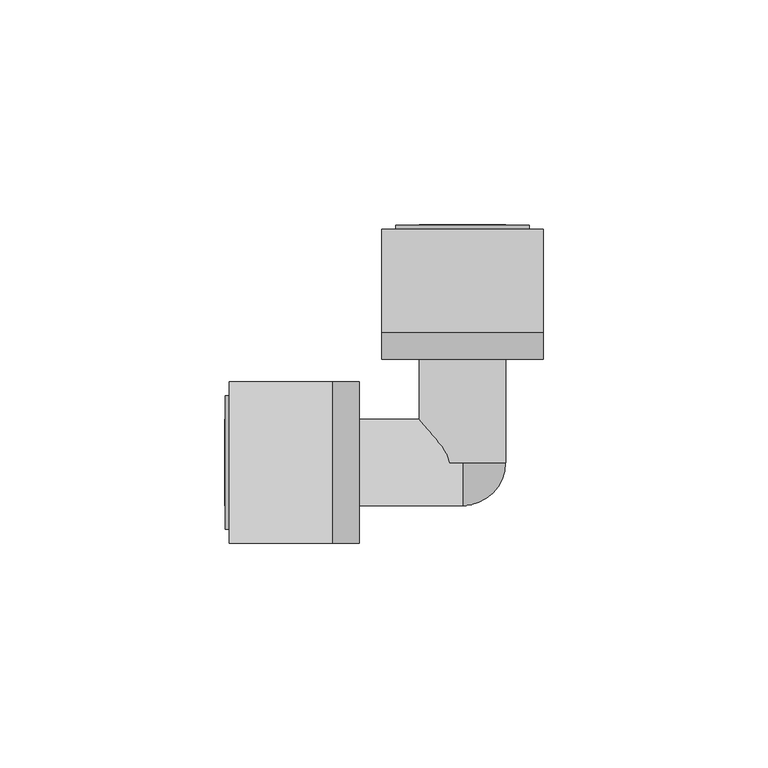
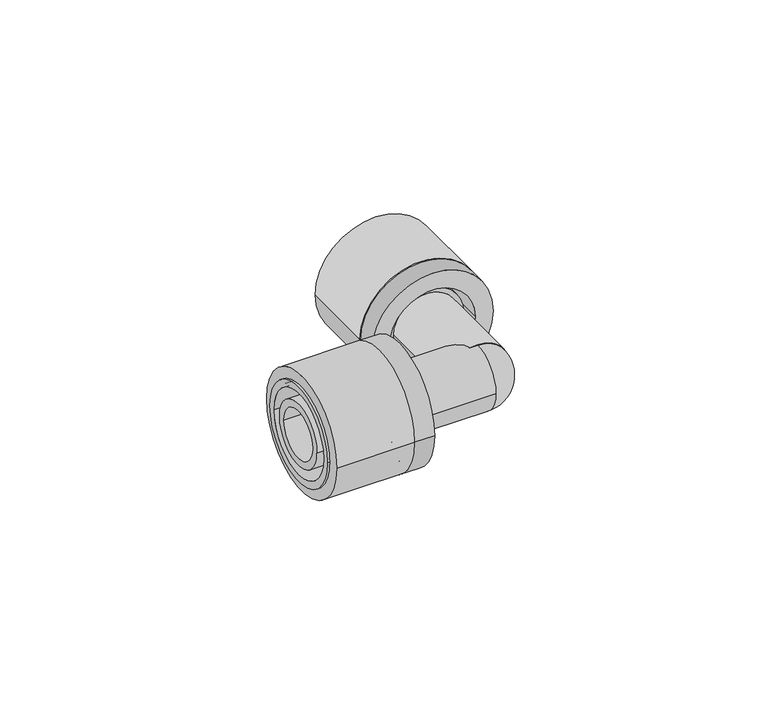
"""IFC4 building model written with IfcOpenShell, lengths in millimetres: pipe fitting geometry, FASTLOC_Corner LX : FSL C LX CZ."""

from ifc_helpers import new_model, si_unit, point, frame, origin, origin_2d, place, context, project, spatial, polyline, circle_curve, ellipse_curve, trimmed, segment, composite_curve, outline, extrude, source, transform, mapped, element, save
from ifc_brep_helpers import plane_surface, cylinder_surface, revolved_surface, advanced_brep


def pipe_fitting_5776f994(model_context):
    return source(origin(), model_context, "Body", "SolidModel", [
        extrude(outline(composite_curve([segment(trimmed(circle_curve(origin_2d(), 18.0), [point((0.0, 18.0))], [point((0.0, -18.0))], False, "CARTESIAN"), True, "CONTINUOUS"), segment(trimmed(circle_curve(origin_2d(), 18.0), [point((0.0, -18.0))], [point((0.0, 18.0))], False, "CARTESIAN"), True, "CONTINUOUS")], self_intersect=False), holes=[composite_curve([segment(trimmed(circle_curve(origin_2d(), 13.5), [point((0.0, 13.5))], [point((0.0, -13.5))], True, "CARTESIAN"), True, "CONTINUOUS"), segment(trimmed(circle_curve(origin_2d(), 13.5), [point((0.0, -13.5))], [point((0.0, 13.5))], True, "CARTESIAN"), True, "CONTINUOUS")], self_intersect=False)]), frame((0.0, 29.0, 0.0), z_axis=(0.0, 1.0, 0.0), x_axis=(0.0, 0.0, 1.0)), (0.0, 0.0, 1.0), 23.0),
        advanced_brep(
        [(-18.0, 29.0, 0.0), (18.0, 29.0, 0.0), (18.0, 23.0, 0.0), (-18.0, 23.0, 0.0), (-14.85, 52.8, 0.0), (14.85, 52.8, 0.0), (14.85, 29.0, 0.0), (-14.85, 29.0, 0.0), (-12.65, 23.0, 0.0), (12.65, 23.0, 0.0), (12.65, 52.8, 0.0), (-12.65, 52.8, 0.0)],
        [
            (0, 1, circle_curve(frame((0.0, 29.0, 0.0), z_axis=(0.0, -1.0, 0.0), x_axis=(1.0, 0.0, 0.0)), 18.0)),
            (1, 2),
            (2, 3, circle_curve(frame((0.0, 23.0, 0.0), z_axis=(0.0, 1.0, 0.0), x_axis=(1.0, 0.0, 0.0)), 18.0)),
            (3, 0),
            (4, 5, circle_curve(frame((0.0, 52.8, 0.0), z_axis=(0.0, -1.0, 0.0), x_axis=(1.0, 0.0, 0.0)), 14.85)),
            (5, 6),
            (6, 7, circle_curve(frame((0.0, 29.0, 0.0), z_axis=(0.0, 1.0, 0.0), x_axis=(1.0, 0.0, 0.0)), 14.85)),
            (7, 4),
            (8, 9, circle_curve(frame((0.0, 23.0, 0.0), z_axis=(0.0, -1.0, 0.0), x_axis=(1.0, 0.0, 0.0)), 12.65)),
            (9, 10),
            (10, 11, circle_curve(frame((0.0, 52.8, 0.0), z_axis=(0.0, 1.0, 0.0), x_axis=(1.0, 0.0, 0.0)), 12.65)),
            (11, 8),
            (1, 0, circle_curve(frame((0.0, 29.0, 0.0), z_axis=(0.0, -1.0, 0.0), x_axis=(-1.0, 0.0, 0.0)), 18.0)),
            (3, 2, circle_curve(frame((0.0, 23.0, 0.0), z_axis=(0.0, 1.0, 0.0), x_axis=(-1.0, 0.0, 0.0)), 18.0)),
            (6, 7, circle_curve(frame((0.0, 29.0, 0.0), z_axis=(0.0, -1.0, 0.0), x_axis=(-1.0, 0.0, 0.0)), 14.85)),
            (5, 4, circle_curve(frame((0.0, 52.8, 0.0), z_axis=(0.0, -1.0, 0.0), x_axis=(-1.0, 0.0, 0.0)), 14.85)),
            (10, 11, circle_curve(frame((0.0, 52.8, 0.0), z_axis=(0.0, -1.0, 0.0), x_axis=(-1.0, 0.0, 0.0)), 12.65)),
            (9, 8, circle_curve(frame((0.0, 23.0, 0.0), z_axis=(0.0, -1.0, 0.0), x_axis=(-1.0, 0.0, 0.0)), 12.65)),
        ],
        [
            cylinder_surface(frame((0.0, 23.0, 0.0), z_axis=(0.0, 1.0, 0.0), x_axis=(1.0, 0.0, 0.0)), 18.0),
            cylinder_surface(frame((0.0, 23.0, 0.0), z_axis=(0.0, 1.0, 0.0), x_axis=(1.0, 0.0, 0.0)), 14.85),
            revolved_surface(polyline([(12.65, 52.8, 0.0), (12.65, 23.0, 0.0)]), (0.0, 23.0, 0.0), (0.0, 1.0, 0.0)),
            cylinder_surface(frame((0.0, 23.0, 0.0), z_axis=(0.0, 1.0, 0.0), x_axis=(-1.0, 0.0, 0.0)), 18.0),
            plane_surface(frame((0.0, 29.0, 0.0), z_axis=(0.0, 1.0, 0.0), x_axis=(-1.0, 0.0, 0.0))),
            cylinder_surface(frame((0.0, 23.0, 0.0), z_axis=(0.0, 1.0, 0.0), x_axis=(-1.0, 0.0, 0.0)), 14.85),
            plane_surface(frame((0.0, 52.8, 0.0), z_axis=(0.0, 1.0, 0.0), x_axis=(-1.0, 0.0, 0.0))),
            revolved_surface(polyline([(-12.65, 52.8, 0.0), (-12.65, 23.0, 0.0)]), (0.0, 23.0, 0.0), (0.0, 1.0, 0.0)),
            plane_surface(frame((0.0, 23.0, 0.0), z_axis=(0.0, -1.0, 0.0), x_axis=(-1.0, 0.0, 0.0))),
        ],
        [
            (0, [[1, 2, 3, 4]]),
            (1, [[5, 6, 7, 8]]),
            (2, [[9, 10, 11, 12]]),
            (3, [[13, -4, 14, -2]]),
            (4, [[-13, -1], [15, -7]]),
            (5, [[16, -8, -15, -6]]),
            (6, [[-16, -5], [17, -11]]),
            (7, [[18, -12, -17, -10]]),
            (8, [[-14, -3], [-18, -9]]),
        ],
    ),
        extrude(outline(composite_curve([segment(trimmed(circle_curve(origin_2d(), 18.0), [point((18.0, 0.0))], [point((-18.0, 0.0))], False, "CARTESIAN"), True, "CONTINUOUS"), segment(trimmed(circle_curve(origin_2d(), 18.0), [point((-18.0, 0.0))], [point((18.0, 0.0))], False, "CARTESIAN"), True, "CONTINUOUS")], self_intersect=False), holes=[composite_curve([segment(trimmed(circle_curve(origin_2d(), 13.5), [point((13.5, 0.0))], [point((-13.5, 0.0))], True, "CARTESIAN"), True, "CONTINUOUS"), segment(trimmed(circle_curve(origin_2d(), 13.5), [point((-13.5, 0.0))], [point((13.5, 0.0))], True, "CARTESIAN"), True, "CONTINUOUS")], self_intersect=False)]), frame((-52.0, 0.0, 0.0), z_axis=(1.0, 0.0, 0.0), x_axis=(0.0, 1.0, 0.0)), (0.0, 0.0, 1.0), 23.0),
        advanced_brep(
        [(-29.0, -18.0, 0.0), (-29.0, 18.0, 0.0), (-23.0, 18.0, 0.0), (-23.0, -18.0, 0.0), (-52.8, -14.85, 0.0), (-52.8, 14.85, 0.0), (-29.0, 14.85, 0.0), (-29.0, -14.85, 0.0), (-23.0, -12.65, 0.0), (-23.0, 12.65, 0.0), (-52.8, 12.65, 0.0), (-52.8, -12.65, 0.0)],
        [
            (0, 1, circle_curve(frame((-29.0, 0.0, 0.0), z_axis=(1.0, 0.0, 0.0), x_axis=(0.0, 1.0, 0.0)), 18.0)),
            (1, 2),
            (2, 3, circle_curve(frame((-23.0, 0.0, 0.0), z_axis=(-1.0, 0.0, 0.0), x_axis=(0.0, 1.0, 0.0)), 18.0)),
            (3, 0),
            (4, 5, circle_curve(frame((-52.8, 0.0, 0.0), z_axis=(1.0, 0.0, 0.0), x_axis=(0.0, 1.0, 0.0)), 14.85)),
            (5, 6),
            (6, 7, circle_curve(frame((-29.0, 0.0, 0.0), z_axis=(-1.0, 0.0, 0.0), x_axis=(0.0, 1.0, 0.0)), 14.85)),
            (7, 4),
            (8, 9, circle_curve(frame((-23.0, 0.0, 0.0), z_axis=(1.0, 0.0, 0.0), x_axis=(0.0, 1.0, 0.0)), 12.65)),
            (9, 10),
            (10, 11, circle_curve(frame((-52.8, 0.0, 0.0), z_axis=(-1.0, 0.0, 0.0), x_axis=(0.0, 1.0, 0.0)), 12.65)),
            (11, 8),
            (1, 0, circle_curve(frame((-29.0, 0.0, 0.0), z_axis=(1.0, 0.0, 0.0), x_axis=(0.0, -1.0, 0.0)), 18.0)),
            (3, 2, circle_curve(frame((-23.0, 0.0, 0.0), z_axis=(-1.0, 0.0, 0.0), x_axis=(0.0, -1.0, 0.0)), 18.0)),
            (6, 7, circle_curve(frame((-29.0, 0.0, 0.0), z_axis=(1.0, 0.0, 0.0), x_axis=(0.0, -1.0, 0.0)), 14.85)),
            (5, 4, circle_curve(frame((-52.8, 0.0, 0.0), z_axis=(1.0, 0.0, 0.0), x_axis=(0.0, -1.0, 0.0)), 14.85)),
            (10, 11, circle_curve(frame((-52.8, 0.0, 0.0), z_axis=(1.0, 0.0, 0.0), x_axis=(0.0, -1.0, 0.0)), 12.65)),
            (9, 8, circle_curve(frame((-23.0, 0.0, 0.0), z_axis=(1.0, 0.0, 0.0), x_axis=(0.0, -1.0, 0.0)), 12.65)),
        ],
        [
            cylinder_surface(frame((-23.0, 0.0, 0.0), z_axis=(-1.0, 0.0, 0.0), x_axis=(0.0, 1.0, 0.0)), 18.0),
            cylinder_surface(frame((-23.0, 0.0, 0.0), z_axis=(-1.0, 0.0, 0.0), x_axis=(0.0, 1.0, 0.0)), 14.85),
            revolved_surface(polyline([(-52.8, 12.65, 0.0), (-23.0, 12.65, 0.0)]), (-23.0, 0.0, 0.0), (-1.0, 0.0, 0.0)),
            cylinder_surface(frame((-23.0, 0.0, 0.0), z_axis=(-1.0, 0.0, 0.0), x_axis=(0.0, -1.0, 0.0)), 18.0),
            plane_surface(frame((-29.0, 0.0, 0.0), z_axis=(-1.0, 0.0, 0.0), x_axis=(0.0, -1.0, 0.0))),
            cylinder_surface(frame((-23.0, 0.0, 0.0), z_axis=(-1.0, 0.0, 0.0), x_axis=(0.0, -1.0, 0.0)), 14.85),
            plane_surface(frame((-52.8, 0.0, 0.0), z_axis=(-1.0, 0.0, 0.0), x_axis=(0.0, -1.0, 0.0))),
            revolved_surface(polyline([(-52.8, -12.65, 0.0), (-23.0, -12.65, 0.0)]), (-23.0, 0.0, 0.0), (-1.0, 0.0, 0.0)),
            plane_surface(frame((-23.0, 0.0, 0.0), z_axis=(1.0, 0.0, 0.0), x_axis=(0.0, -1.0, 0.0))),
        ],
        [
            (0, [[1, 2, 3, 4]]),
            (1, [[5, 6, 7, 8]]),
            (2, [[9, 10, 11, 12]]),
            (3, [[13, -4, 14, -2]]),
            (4, [[-13, -1], [15, -7]]),
            (5, [[16, -8, -15, -6]]),
            (6, [[-16, -5], [17, -11]]),
            (7, [[18, -12, -17, -10]]),
            (8, [[-14, -3], [-18, -9]]),
        ],
    ),
        advanced_brep(
        [(7.35, 53.0, 0.0), (-7.35, 53.0, 0.0), (-7.35, 0.0, 0.0), (7.35, 0.0, 0.0), (9.6, 29.0, 0.0), (-9.6, 29.0, 0.0), (-9.6, 53.0, 0.0), (9.6, 53.0, 0.0), (11.1, 26.2, 0.0), (-11.1, 26.2, 0.0), (-11.1, 29.0, 0.0), (11.1, 29.0, 0.0), (9.6, 0.0, 0.0), (-9.6, 0.0, 0.0), (-9.6, 26.2, 0.0), (9.6, 26.2, 0.0)],
        [
            (0, 1, circle_curve(frame((0.0, 53.0, 0.0), z_axis=(0.0, 1.0, 0.0), x_axis=(-1.0, 0.0, 0.0)), 7.35)),
            (1, 2),
            (2, 3, circle_curve(frame((0.0, 0.0, 0.0), z_axis=(0.0, -1.0, 0.0), x_axis=(-1.0, 0.0, 0.0)), 7.35)),
            (3, 0),
            (4, 5, circle_curve(frame((0.0, 29.0, 0.0), z_axis=(0.0, 1.0, 0.0), x_axis=(-1.0, 0.0, 0.0)), 9.6)),
            (5, 6),
            (6, 7, circle_curve(frame((0.0, 53.0, 0.0), z_axis=(0.0, -1.0, 0.0), x_axis=(-1.0, 0.0, 0.0)), 9.6)),
            (7, 4),
            (8, 9, circle_curve(frame((0.0, 26.2, 0.0), z_axis=(0.0, 1.0, 0.0), x_axis=(-1.0, 0.0, 0.0)), 11.1)),
            (9, 10),
            (10, 11, circle_curve(frame((0.0, 29.0, 0.0), z_axis=(0.0, -1.0, 0.0), x_axis=(-1.0, 0.0, 0.0)), 11.1)),
            (11, 8),
            (12, 13, circle_curve(frame((0.0, 0.0, 0.0), z_axis=(0.0, 1.0, 0.0), x_axis=(-1.0, 0.0, 0.0)), 9.6)),
            (13, 14),
            (14, 15, circle_curve(frame((0.0, 26.2, 0.0), z_axis=(0.0, -1.0, 0.0), x_axis=(-1.0, 0.0, 0.0)), 9.6)),
            (15, 12),
            (1, 0, circle_curve(frame((0.0, 53.0, 0.0), z_axis=(0.0, 1.0, 0.0), x_axis=(1.0, 0.0, 0.0)), 7.35)),
            (3, 2, circle_curve(frame((0.0, 0.0, 0.0), z_axis=(0.0, -1.0, 0.0), x_axis=(1.0, 0.0, 0.0)), 7.35)),
            (6, 7, circle_curve(frame((0.0, 53.0, 0.0), z_axis=(0.0, 1.0, 0.0), x_axis=(1.0, 0.0, 0.0)), 9.6)),
            (5, 4, circle_curve(frame((0.0, 29.0, 0.0), z_axis=(0.0, 1.0, 0.0), x_axis=(1.0, 0.0, 0.0)), 9.6)),
            (10, 11, circle_curve(frame((0.0, 29.0, 0.0), z_axis=(0.0, 1.0, 0.0), x_axis=(1.0, 0.0, 0.0)), 11.1)),
            (9, 8, circle_curve(frame((0.0, 26.2, 0.0), z_axis=(0.0, 1.0, 0.0), x_axis=(1.0, 0.0, 0.0)), 11.1)),
            (14, 15, circle_curve(frame((0.0, 26.2, 0.0), z_axis=(0.0, 1.0, 0.0), x_axis=(1.0, 0.0, 0.0)), 9.6)),
            (13, 12, circle_curve(frame((0.0, 0.0, 0.0), z_axis=(0.0, 1.0, 0.0), x_axis=(1.0, 0.0, 0.0)), 9.6)),
        ],
        [
            revolved_surface(polyline([(-7.35, 0.0, 0.0), (-7.35, 53.0, 0.0)]), (0.0, 0.0, 0.0), (0.0, -1.0, 0.0)),
            cylinder_surface(frame((0.0, 0.0, 0.0), z_axis=(0.0, -1.0, 0.0), x_axis=(-1.0, 0.0, 0.0)), 9.6),
            cylinder_surface(frame((0.0, 0.0, 0.0), z_axis=(0.0, -1.0, 0.0), x_axis=(-1.0, 0.0, 0.0)), 11.1),
            revolved_surface(polyline([(7.35, 0.0, 0.0), (7.35, 53.0, 0.0)]), (0.0, 0.0, 0.0), (0.0, -1.0, 0.0)),
            plane_surface(frame((0.0, 53.0, 0.0), z_axis=(0.0, 1.0, 0.0), x_axis=(1.0, 0.0, 0.0))),
            cylinder_surface(frame((0.0, 0.0, 0.0), z_axis=(0.0, -1.0, 0.0), x_axis=(1.0, 0.0, 0.0)), 9.6),
            plane_surface(frame((0.0, 29.0, 0.0), z_axis=(0.0, 1.0, 0.0), x_axis=(1.0, 0.0, 0.0))),
            cylinder_surface(frame((0.0, 0.0, 0.0), z_axis=(0.0, -1.0, 0.0), x_axis=(1.0, 0.0, 0.0)), 11.1),
            plane_surface(frame((0.0, 26.2, 0.0), z_axis=(0.0, -1.0, 0.0), x_axis=(1.0, 0.0, 0.0))),
            plane_surface(frame((0.0, 0.0, 0.0), z_axis=(0.0, -1.0, 0.0), x_axis=(1.0, 0.0, 0.0))),
        ],
        [
            (0, [[1, 2, 3, 4]]),
            (1, [[5, 6, 7, 8]]),
            (2, [[9, 10, 11, 12]]),
            (1, [[13, 14, 15, 16]]),
            (3, [[17, -4, 18, -2]]),
            (4, [[19, -7], [-17, -1]]),
            (5, [[20, -8, -19, -6]]),
            (6, [[21, -11], [-20, -5]]),
            (7, [[22, -12, -21, -10]]),
            (8, [[-22, -9], [23, -15]]),
            (5, [[24, -16, -23, -14]]),
            (9, [[-24, -13], [-18, -3]]),
        ],
    ),
        advanced_brep(
        [(-53.0, 7.35, 0.0), (-53.0, -7.35, 0.0), (0.0, -7.35, 0.0), (0.0, 7.35, 0.0), (-29.0, 9.6, 0.0), (-29.0, -9.6, 0.0), (-53.0, -9.6, 0.0), (-53.0, 9.6, 0.0), (-26.2, 11.1, 0.0), (-26.2, -11.1, 0.0), (-29.0, -11.1, 0.0), (-29.0, 11.1, 0.0), (0.0, 9.6, 0.0), (0.0, -9.6, 0.0), (-26.2, -9.6, 0.0), (-26.2, 9.6, 0.0)],
        [
            (0, 1, circle_curve(frame((-53.0, 0.0, 0.0), z_axis=(-1.0, 0.0, 0.0), x_axis=(0.0, -1.0, 0.0)), 7.35)),
            (1, 2),
            (2, 3, circle_curve(frame((0.0, 0.0, 0.0), z_axis=(1.0, 0.0, 0.0), x_axis=(0.0, -1.0, 0.0)), 7.35)),
            (3, 0),
            (4, 5, circle_curve(frame((-29.0, 0.0, 0.0), z_axis=(-1.0, 0.0, 0.0), x_axis=(0.0, -1.0, 0.0)), 9.6)),
            (5, 6),
            (6, 7, circle_curve(frame((-53.0, 0.0, 0.0), z_axis=(1.0, 0.0, 0.0), x_axis=(0.0, -1.0, 0.0)), 9.6)),
            (7, 4),
            (8, 9, circle_curve(frame((-26.2, 0.0, 0.0), z_axis=(-1.0, 0.0, 0.0), x_axis=(0.0, -1.0, 0.0)), 11.1)),
            (9, 10),
            (10, 11, circle_curve(frame((-29.0, 0.0, 0.0), z_axis=(1.0, 0.0, 0.0), x_axis=(0.0, -1.0, 0.0)), 11.1)),
            (11, 8),
            (12, 13, circle_curve(frame((0.0, 0.0, 0.0), z_axis=(-1.0, 0.0, 0.0), x_axis=(0.0, -1.0, 0.0)), 9.6)),
            (13, 14),
            (14, 15, circle_curve(frame((-26.2, 0.0, 0.0), z_axis=(1.0, 0.0, 0.0), x_axis=(0.0, -1.0, 0.0)), 9.6)),
            (15, 12),
            (1, 0, circle_curve(frame((-53.0, 0.0, 0.0), z_axis=(-1.0, 0.0, 0.0), x_axis=(0.0, 1.0, 0.0)), 7.35)),
            (3, 2, circle_curve(frame((0.0, 0.0, 0.0), z_axis=(1.0, 0.0, 0.0), x_axis=(0.0, 1.0, 0.0)), 7.35)),
            (6, 7, circle_curve(frame((-53.0, 0.0, 0.0), z_axis=(-1.0, 0.0, 0.0), x_axis=(0.0, 1.0, 0.0)), 9.6)),
            (5, 4, circle_curve(frame((-29.0, 0.0, 0.0), z_axis=(-1.0, 0.0, 0.0), x_axis=(0.0, 1.0, 0.0)), 9.6)),
            (10, 11, circle_curve(frame((-29.0, 0.0, 0.0), z_axis=(-1.0, 0.0, 0.0), x_axis=(0.0, 1.0, 0.0)), 11.1)),
            (9, 8, circle_curve(frame((-26.2, 0.0, 0.0), z_axis=(-1.0, 0.0, 0.0), x_axis=(0.0, 1.0, 0.0)), 11.1)),
            (14, 15, circle_curve(frame((-26.2, 0.0, 0.0), z_axis=(-1.0, 0.0, 0.0), x_axis=(0.0, 1.0, 0.0)), 9.6)),
            (13, 12, circle_curve(frame((0.0, 0.0, 0.0), z_axis=(-1.0, 0.0, 0.0), x_axis=(0.0, 1.0, 0.0)), 9.6)),
        ],
        [
            revolved_surface(polyline([(0.0, -7.35, 0.0), (-53.0, -7.35, 0.0)]), (0.0, 0.0, 0.0), (1.0, 0.0, 0.0)),
            cylinder_surface(frame((0.0, 0.0, 0.0), z_axis=(1.0, 0.0, 0.0), x_axis=(0.0, -1.0, 0.0)), 9.6),
            cylinder_surface(frame((0.0, 0.0, 0.0), z_axis=(1.0, 0.0, 0.0), x_axis=(0.0, -1.0, 0.0)), 11.1),
            revolved_surface(polyline([(0.0, 7.35, 0.0), (-53.0, 7.35, 0.0)]), (0.0, 0.0, 0.0), (1.0, 0.0, 0.0)),
            plane_surface(frame((-53.0, 0.0, 0.0), z_axis=(-1.0, 0.0, 0.0), x_axis=(0.0, 1.0, 0.0))),
            cylinder_surface(frame((0.0, 0.0, 0.0), z_axis=(1.0, 0.0, 0.0), x_axis=(0.0, 1.0, 0.0)), 9.6),
            plane_surface(frame((-29.0, 0.0, 0.0), z_axis=(-1.0, 0.0, 0.0), x_axis=(0.0, 1.0, 0.0))),
            cylinder_surface(frame((0.0, 0.0, 0.0), z_axis=(1.0, 0.0, 0.0), x_axis=(0.0, 1.0, 0.0)), 11.1),
            plane_surface(frame((-26.2, 0.0, 0.0), z_axis=(1.0, 0.0, 0.0), x_axis=(0.0, 1.0, 0.0))),
            plane_surface(frame((0.0, 0.0, 0.0), z_axis=(1.0, 0.0, 0.0), x_axis=(0.0, 1.0, 0.0))),
        ],
        [
            (0, [[1, 2, 3, 4]]),
            (1, [[5, 6, 7, 8]]),
            (2, [[9, 10, 11, 12]]),
            (1, [[13, 14, 15, 16]]),
            (3, [[17, -4, 18, -2]]),
            (4, [[19, -7], [-17, -1]]),
            (5, [[20, -8, -19, -6]]),
            (6, [[21, -11], [-20, -5]]),
            (7, [[22, -12, -21, -10]]),
            (8, [[-22, -9], [23, -15]]),
            (5, [[24, -16, -23, -14]]),
            (9, [[-24, -13], [-18, -3]]),
        ],
    ),
        advanced_brep(
        [(0.0, 0.0, 9.6), (0.0, 0.0, 0.0), (0.0, -9.6, 0.0), (0.0, 0.0, -9.6)],
        [
            (0, 1),
            (1, 2),
            (2, 0, circle_curve(frame((0.0, 0.0, 0.0), z_axis=(-1.0, 0.0, 0.0), x_axis=(0.0, 0.0, 1.0)), 9.6)),
            (3, 2, circle_curve(frame((0.0, 0.0, 0.0), z_axis=(-1.0, 0.0, 0.0), x_axis=(0.0, 0.0, -1.0)), 9.6)),
            (1, 3),
            (0, 3, circle_curve(frame((0.0, 0.0, 0.0), z_axis=(0.0, 1.0, 0.0), x_axis=(0.0, 0.0, 1.0)), 9.6)),
        ],
        [
            plane_surface(frame((0.0, 0.0, 0.0), z_axis=(-1.0, 0.0, 0.0), x_axis=(0.0, 0.0, 1.0))),
            plane_surface(frame((0.0, 0.0, 0.0), z_axis=(-1.0, 0.0, 0.0), x_axis=(0.0, 0.0, -1.0))),
            plane_surface(frame((0.0, 0.0, 0.0), z_axis=(0.0, 1.0, 0.0), x_axis=(0.0, 0.0, 1.0))),
            revolved_surface(trimmed(ellipse_curve(frame((0.0, 0.0, 0.0), z_axis=(-1.0, 0.0, 0.0), x_axis=(0.0, 0.0, 1.0)), 9.6, 9.6), [point((0.0, -9.6, 0.0))], [point((0.0, 0.0, 9.6))], True, "CARTESIAN"), (0.0, 0.0, 0.0), (0.0, 1.0, 0.0)),
        ],
        [
            (0, [[1, 2, 3]]),
            (1, [[4, -2, 5]]),
            (2, [[-1, 6, -5]]),
            (3, [[-6, -3, -4]]),
        ],
    ),
    ])


if __name__ == "__main__":
    model = new_model("IFC4")
    model_context = context("Model", 3, world=origin())
    ifc_project = project(units=[si_unit("LENGTHUNIT", "METRE", prefix="MILLI")], contexts=[model_context])
    site = spatial("IfcSite", under=ifc_project)
    building = spatial("IfcBuilding", under=site)
    placement = place(None, origin())
    pipe_fitting_shape = pipe_fitting_5776f994(model_context)
    element("IfcPipeFitting", 1, ObjectType="FASTLOC_Corner LX : FSL C LX CZ", at=placement, inside=building, context=model_context, shape_type="MappedRepresentation", body=[
        mapped(pipe_fitting_shape, transform((0.0, 0.0, 0.0), x_axis=(1.0, 0.0, 0.0), y_axis=(0.0, 1.0, 0.0), z_axis=(0.0, 0.0, 1.0))),
    ])
    save(model, "model.ifc")
